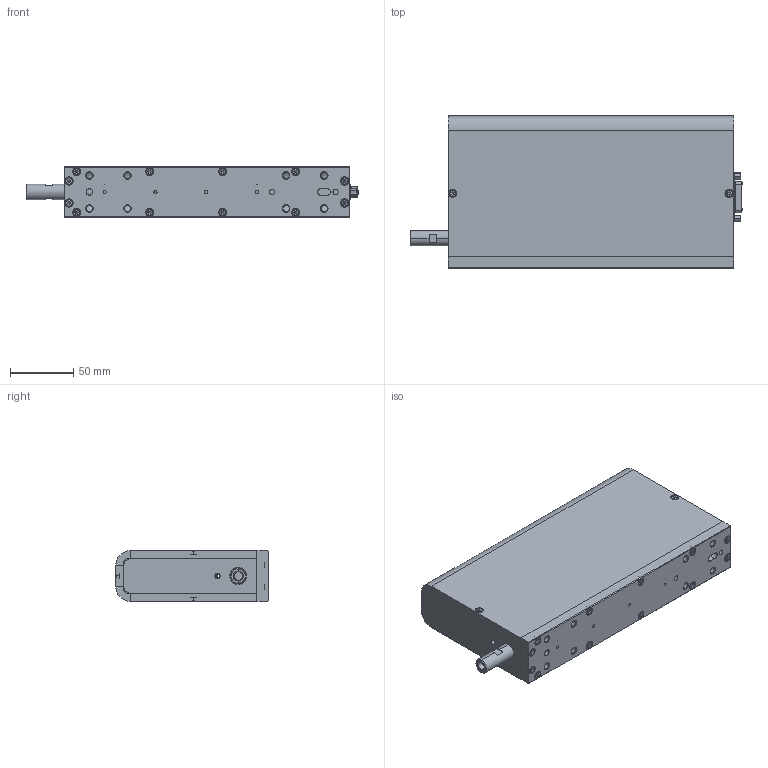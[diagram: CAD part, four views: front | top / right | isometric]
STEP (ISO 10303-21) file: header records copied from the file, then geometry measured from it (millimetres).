
FILE_DESCRIPTION (( 'STEP AP203' ), '1' );
FILE_NAME ('LDL40C-050-35-3F_A(3d).STEP', '2021-10-15T20:51:47', ( '' ), ( '' ), 'SwSTEP 2.0', 'SolidWorks 2020', '' );
FILE_SCHEMA (( 'CONFIG_CONTROL_DESIGN' ));
Length unit declared in the file: millimetre
Products named in the file (1): LDL40C-050-35-3F_A(3d)
Bounding box: 261.65 x 120 x 40 mm (x, y, z)
Surface area: 88652.6 mm2 (no closed solid volume)
Topology: 0 solids, 40 shells, 533 faces, 1611 edges, 1060 vertices
Faces by surface type: cylinder 201, plane 201, cone 120, torus 9, bspline 2
Entity records: 18936 total; most frequent: CARTESIAN_POINT 4493, DIRECTION 3169, ORIENTED_EDGE 2559, EDGE_CURVE 1577, AXIS2_PLACEMENT_3D 1138, VERTEX_POINT 1060, LINE 893, VECTOR 893
